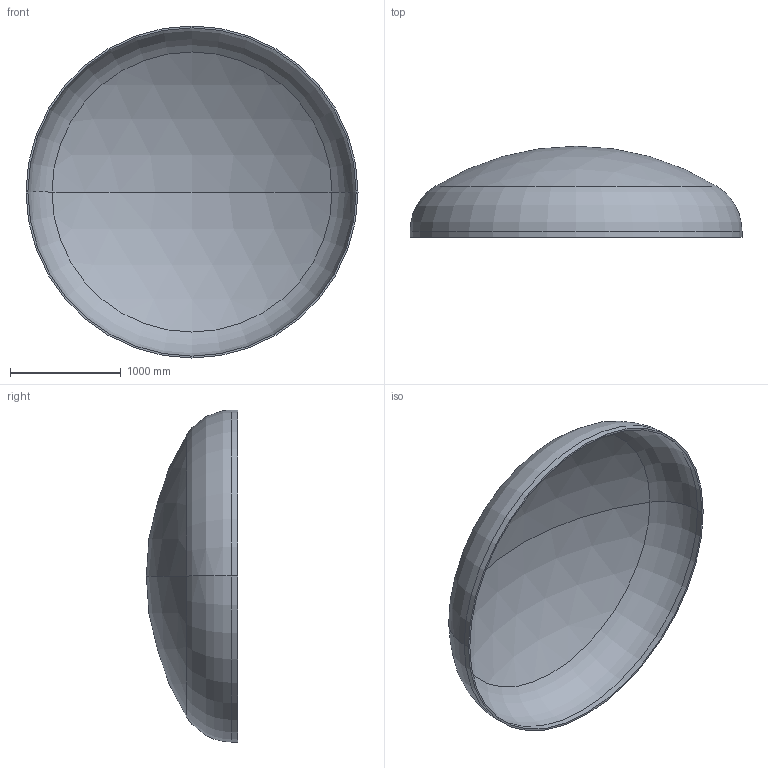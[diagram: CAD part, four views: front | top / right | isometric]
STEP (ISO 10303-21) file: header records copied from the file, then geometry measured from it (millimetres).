
FILE_DESCRIPTION (( 'STEP AP203' ), '1' );
FILE_NAME ('DIN 28013 Korbbogenform_-_Boden DIN 28013 - 3000 x 55 - I - s=17.step', '2016-07-01T17:32:26', ( '' ), ( '' ), 'SwSTEP 2.0', 'SolidWorks 2013', '' );
FILE_SCHEMA (( 'CONFIG_CONTROL_DESIGN' ));
Length unit declared in the file: millimetre
Products named in the file (1): DIN 28013 Korbbogenform_-_Boden DIN 28013 - 3000 x 55 - I - s=17
Bounding box: 3000 x 823.65 x 3000 mm (x, y, z)
Volume: 173813061.4 mm3; surface area: 20608506 mm2
Topology: 1 solids, 1 shells, 13 faces, 24 edges, 14 vertices
Faces by surface type: torus 4, cylinder 4, sphere 4, plane 1
Entity records: 407 total; most frequent: DIRECTION 72, CARTESIAN_POINT 52, ORIENTED_EDGE 48, AXIS2_PLACEMENT_3D 34, EDGE_CURVE 24, CIRCLE 20, VERTEX_POINT 14, EDGE_LOOP 14
